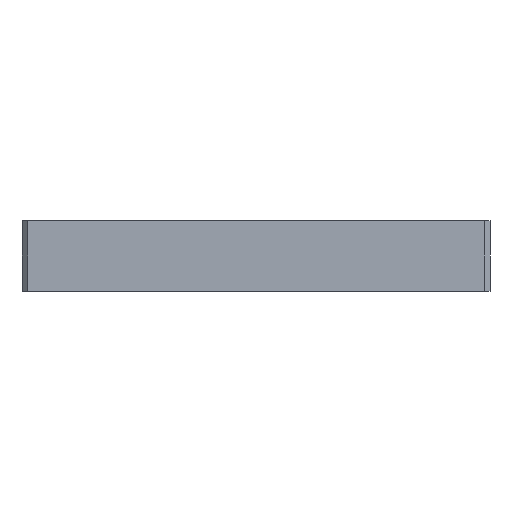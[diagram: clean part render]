
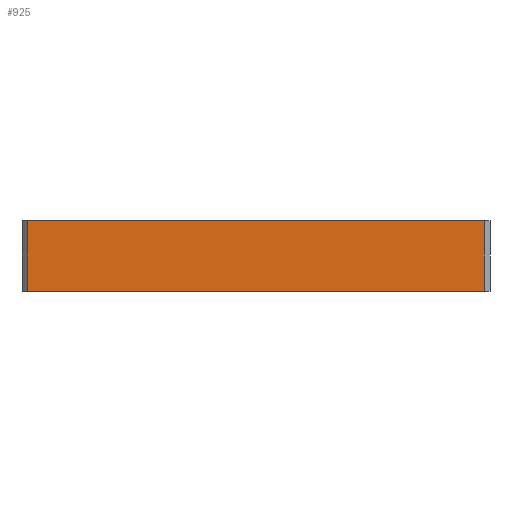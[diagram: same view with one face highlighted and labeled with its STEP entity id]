
A CAD part, left-side view. The second image highlights one B-rep face of the part: STEP entity #925.
In plain terms, the highlighted planar face has unit normal (-1, 0, 0).
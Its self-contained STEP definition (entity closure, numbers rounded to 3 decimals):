
#32 = CARTESIAN_POINT ( 'NONE',  ( -17.571, 7.979, 12. ) ) ;
#42 = VECTOR ( 'NONE', #824, 1000. ) ;
#54 = VERTEX_POINT ( 'NONE', #866 ) ;
#55 = CARTESIAN_POINT ( 'NONE',  ( -17.571, 8.979, 0. ) ) ;
#88 = VECTOR ( 'NONE', #441, 1000. ) ;
#184 = EDGE_CURVE ( 'NONE', #424, #921, #692, .T. ) ;
#200 = LINE ( 'NONE', #1007, #88 ) ;
#234 = ORIENTED_EDGE ( 'NONE', *, *, #507, .T. ) ;
#259 = CARTESIAN_POINT ( 'NONE',  ( -17.571, -70.021, 0. ) ) ;
#290 = CARTESIAN_POINT ( 'NONE',  ( -17.571, 8.979, 0. ) ) ;
#348 = CARTESIAN_POINT ( 'NONE',  ( -17.571, 7.979, 0. ) ) ;
#376 = ORIENTED_EDGE ( 'NONE', *, *, #184, .T. ) ;
#390 = DIRECTION ( 'NONE',  ( 0., -1., 0. ) ) ;
#402 = AXIS2_PLACEMENT_3D ( 'NONE', #55, #624, #390 ) ;
#414 = EDGE_CURVE ( 'NONE', #921, #54, #923, .T. ) ;
#424 = VERTEX_POINT ( 'NONE', #348 ) ;
#441 = DIRECTION ( 'NONE',  ( 0., -1., 0. ) ) ;
#507 = EDGE_CURVE ( 'NONE', #816, #424, #963, .T. ) ;
#588 = CARTESIAN_POINT ( 'NONE',  ( -17.571, -70.021, 0. ) ) ;
#615 = DIRECTION ( 'NONE',  ( 0., -1., 0. ) ) ;
#624 = DIRECTION ( 'NONE',  ( -1., 0., 0. ) ) ;
#625 = CARTESIAN_POINT ( 'NONE',  ( -17.571, 7.979, 0. ) ) ;
#648 = EDGE_LOOP ( 'NONE', ( #840, #234, #376, #836 ) ) ;
#692 = LINE ( 'NONE', #290, #900 ) ;
#755 = FACE_OUTER_BOUND ( 'NONE', #648, .T. ) ;
#775 = EDGE_CURVE ( 'NONE', #816, #54, #200, .T. ) ;
#785 = PLANE ( 'NONE',  #402 ) ;
#816 = VERTEX_POINT ( 'NONE', #32 ) ;
#824 = DIRECTION ( 'NONE',  ( 0., 0., 1. ) ) ;
#836 = ORIENTED_EDGE ( 'NONE', *, *, #414, .T. ) ;
#840 = ORIENTED_EDGE ( 'NONE', *, *, #775, .F. ) ;
#866 = CARTESIAN_POINT ( 'NONE',  ( -17.571, -70.021, 12. ) ) ;
#869 = DIRECTION ( 'NONE',  ( 0., 0., -1. ) ) ;
#879 = VECTOR ( 'NONE', #869, 1000. ) ;
#900 = VECTOR ( 'NONE', #615, 1000. ) ;
#921 = VERTEX_POINT ( 'NONE', #588 ) ;
#923 = LINE ( 'NONE', #259, #42 ) ;
#925 = ADVANCED_FACE ( 'NONE', ( #755 ), #785, .T. ) ;
#963 = LINE ( 'NONE', #625, #879 ) ;
#1007 = CARTESIAN_POINT ( 'NONE',  ( -17.571, 8.979, 12. ) ) ;
